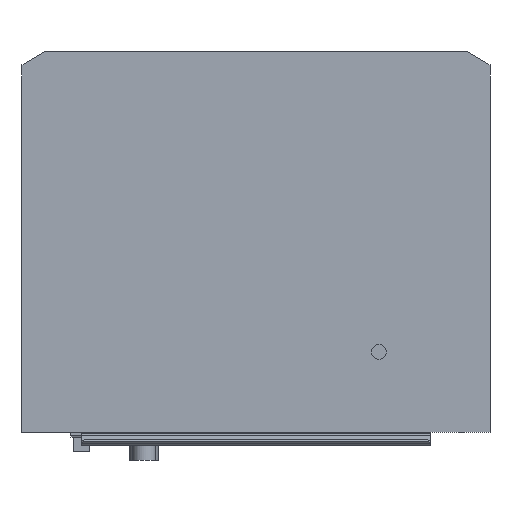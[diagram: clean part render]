
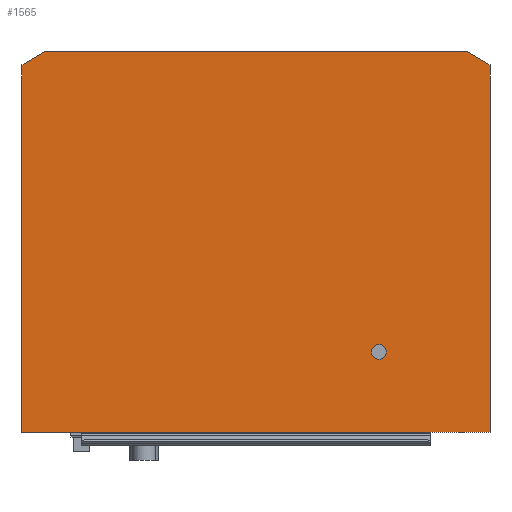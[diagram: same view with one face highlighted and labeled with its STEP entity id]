
A CAD part, front view. The second image highlights one B-rep face of the part: STEP entity #1565.
In plain terms, the highlighted planar face has unit normal (0, -1, 0).
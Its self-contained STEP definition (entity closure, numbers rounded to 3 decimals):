
#44=DIRECTION('',(0.,0.,1.));
#45=VECTOR('',#44,357.);
#46=CARTESIAN_POINT('',(-227.5,0.,0.));
#47=LINE('',#46,#45);
#48=DIRECTION('',(0.856,0.,0.517));
#49=VECTOR('',#48,25.125);
#50=CARTESIAN_POINT('',(-227.5,0.,357.));
#51=LINE('',#50,#49);
#52=DIRECTION('',(1.,0.,0.));
#53=VECTOR('',#52,412.);
#54=CARTESIAN_POINT('',(-206.,0.,370.));
#55=LINE('',#54,#53);
#56=DIRECTION('',(0.856,0.,-0.517));
#57=VECTOR('',#56,25.125);
#58=CARTESIAN_POINT('',(206.,0.,370.));
#59=LINE('',#58,#57);
#60=DIRECTION('',(0.,0.,-1.));
#61=VECTOR('',#60,357.);
#62=CARTESIAN_POINT('',(227.5,0.,357.));
#63=LINE('',#62,#61);
#64=DIRECTION('',(-1.,0.,0.));
#65=VECTOR('',#64,455.);
#66=CARTESIAN_POINT('',(227.5,0.,0.));
#67=LINE('',#66,#65);
#68=CARTESIAN_POINT('',(119.5,0.,78.));
#69=DIRECTION('',(0.,1.,0.));
#70=DIRECTION('',(-1.,0.,0.));
#71=AXIS2_PLACEMENT_3D('',#68,#69,#70);
#73=CARTESIAN_POINT('',(119.5,0.,78.));
#74=DIRECTION('',(0.,1.,0.));
#75=DIRECTION('',(1.,0.,0.));
#76=AXIS2_PLACEMENT_3D('',#73,#74,#75);
#1208=CARTESIAN_POINT('',(-227.5,0.,0.));
#1209=CARTESIAN_POINT('',(-227.5,0.,357.));
#1210=VERTEX_POINT('',#1208);
#1211=VERTEX_POINT('',#1209);
#1212=CARTESIAN_POINT('',(-206.,0.,370.));
#1213=VERTEX_POINT('',#1212);
#1214=CARTESIAN_POINT('',(206.,0.,370.));
#1215=VERTEX_POINT('',#1214);
#1216=CARTESIAN_POINT('',(227.5,0.,357.));
#1217=VERTEX_POINT('',#1216);
#1218=CARTESIAN_POINT('',(227.5,0.,0.));
#1219=VERTEX_POINT('',#1218);
#1536=CARTESIAN_POINT('',(112.25,0.,78.));
#1537=CARTESIAN_POINT('',(126.75,0.,78.));
#1538=VERTEX_POINT('',#1536);
#1539=VERTEX_POINT('',#1537);
#1540=CARTESIAN_POINT('',(0.,0.,0.));
#1541=DIRECTION('',(0.,1.,0.));
#1542=DIRECTION('',(1.,0.,0.));
#1543=AXIS2_PLACEMENT_3D('',#1540,#1541,#1542);
#1544=PLANE('',#1543);
#1546=ORIENTED_EDGE('',*,*,#1545,.T.);
#1548=ORIENTED_EDGE('',*,*,#1547,.T.);
#1550=ORIENTED_EDGE('',*,*,#1549,.T.);
#1552=ORIENTED_EDGE('',*,*,#1551,.T.);
#1554=ORIENTED_EDGE('',*,*,#1553,.T.);
#1556=ORIENTED_EDGE('',*,*,#1555,.T.);
#1557=EDGE_LOOP('',(#1546,#1548,#1550,#1552,#1554,#1556));
#1558=FACE_OUTER_BOUND('',#1557,.F.);
#1560=ORIENTED_EDGE('',*,*,#1559,.F.);
#1562=ORIENTED_EDGE('',*,*,#1561,.F.);
#1563=EDGE_LOOP('',(#1560,#1562));
#1564=FACE_BOUND('',#1563,.F.);
#1565=ADVANCED_FACE('',(#1558,#1564),#1544,.F.);
#72=CIRCLE('',#71,7.25);
#77=CIRCLE('',#76,7.25);
#1545=EDGE_CURVE('',#1210,#1211,#47,.T.);
#1547=EDGE_CURVE('',#1211,#1213,#51,.T.);
#1549=EDGE_CURVE('',#1213,#1215,#55,.T.);
#1551=EDGE_CURVE('',#1215,#1217,#59,.T.);
#1553=EDGE_CURVE('',#1217,#1219,#63,.T.);
#1555=EDGE_CURVE('',#1219,#1210,#67,.T.);
#1559=EDGE_CURVE('',#1538,#1539,#72,.T.);
#1561=EDGE_CURVE('',#1539,#1538,#77,.T.);
